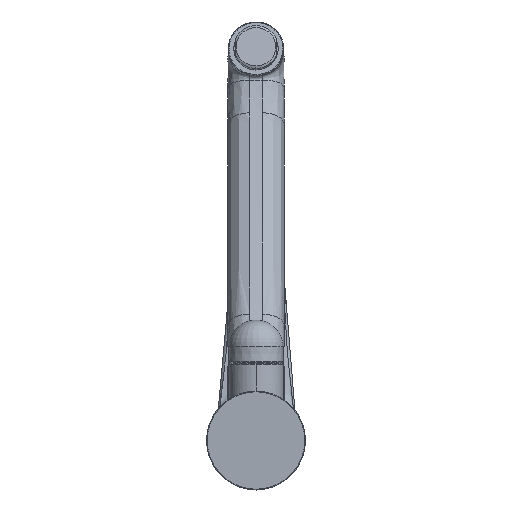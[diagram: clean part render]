
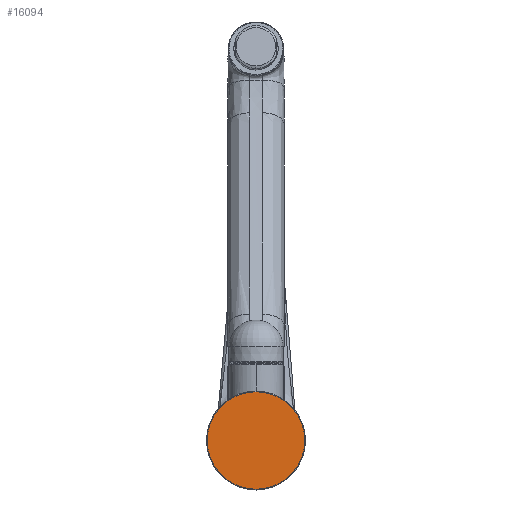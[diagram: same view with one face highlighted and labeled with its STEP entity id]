
A CAD part, front view. The second image highlights one B-rep face of the part: STEP entity #16094.
In plain terms, the highlighted planar face has unit normal (0, -1, 0).
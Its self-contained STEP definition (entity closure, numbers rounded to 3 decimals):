
#1343 = CIRCLE ( 'NONE', #26424, 26.461 ) ;
#1944 = PLANE ( 'NONE',  #29189 ) ;
#2328 = CARTESIAN_POINT ( 'NONE',  ( -149.985, 371.431, 426.817 ) ) ;
#3044 = CARTESIAN_POINT ( 'NONE',  ( -176.446, 371.431, 426.817 ) ) ;
#4634 = DIRECTION ( 'NONE',  ( 0., 0., 1. ) ) ;
#4813 = DIRECTION ( 'NONE',  ( -1., 0., 0. ) ) ;
#8220 = EDGE_CURVE ( 'NONE', #29969, #15047, #1343, .T. ) ;
#9392 = CIRCLE ( 'NONE', #23486, 26.461 ) ;
#11440 = FACE_OUTER_BOUND ( 'NONE', #26742, .T. ) ;
#14172 = CARTESIAN_POINT ( 'NONE',  ( -149.985, 371.431, 426.817 ) ) ;
#15047 = VERTEX_POINT ( 'NONE', #3044 ) ;
#16094 = ADVANCED_FACE ( 'NONE', ( #11440 ), #1944, .T. ) ;
#16619 = DIRECTION ( 'NONE',  ( -1., 0., 0. ) ) ;
#16770 = CARTESIAN_POINT ( 'NONE',  ( -173.985, 371.431, 426.817 ) ) ;
#19075 = CARTESIAN_POINT ( 'NONE',  ( -123.523, 371.431, 426.817 ) ) ;
#19222 = DIRECTION ( 'NONE',  ( 0., -1., 0. ) ) ;
#19387 = DIRECTION ( 'NONE',  ( 0., -1., 0. ) ) ;
#20100 = EDGE_CURVE ( 'NONE', #15047, #29969, #9392, .T. ) ;
#23486 = AXIS2_PLACEMENT_3D ( 'NONE', #14172, #31262, #16619 ) ;
#25243 = ORIENTED_EDGE ( 'NONE', *, *, #8220, .T. ) ;
#25572 = ORIENTED_EDGE ( 'NONE', *, *, #20100, .T. ) ;
#26424 = AXIS2_PLACEMENT_3D ( 'NONE', #2328, #19387, #4813 ) ;
#26742 = EDGE_LOOP ( 'NONE', ( #25572, #25243 ) ) ;
#29189 = AXIS2_PLACEMENT_3D ( 'NONE', #16770, #19222, #4634 ) ;
#29969 = VERTEX_POINT ( 'NONE', #19075 ) ;
#31262 = DIRECTION ( 'NONE',  ( 0., -1., 0. ) ) ;
